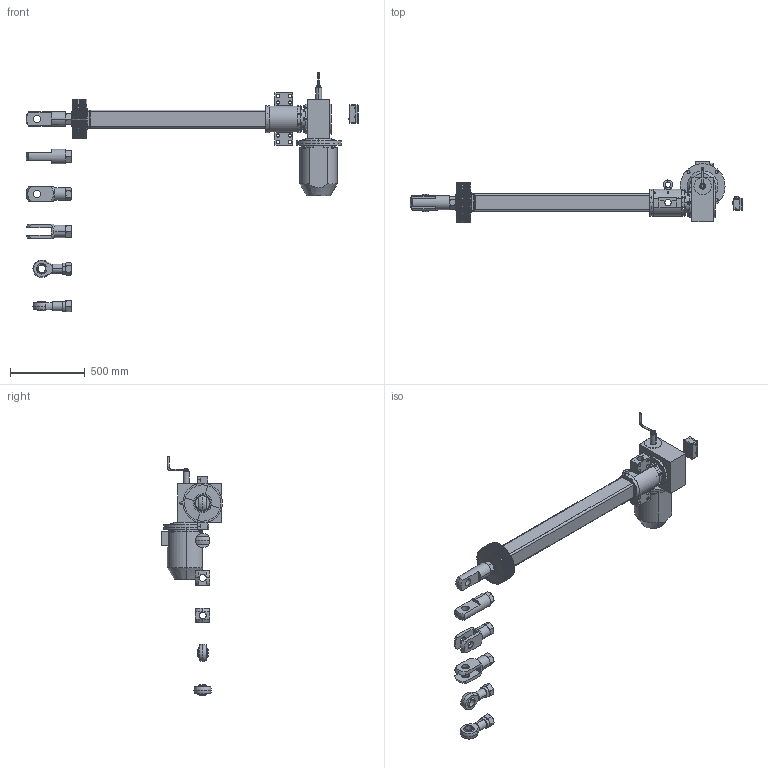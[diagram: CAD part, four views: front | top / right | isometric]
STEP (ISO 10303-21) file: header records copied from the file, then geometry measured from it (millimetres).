
FILE_DESCRIPTION (( 'STEP AP203' ), '1' );
FILE_NAME ('Ì40 10 1000.STEP', '2016-12-21T09:06:44', ( '' ), ( '' ), 'SwSTEP 2.0', 'SolidWorks 2012', '' );
FILE_SCHEMA (( 'CONFIG_CONTROL_DESIGN' ));
Length unit declared in the file: millimetre
Products named in the file (9): ﾌ40 10 1000; 迕10; 苂10; 迍 10; ﾁﾑﾏ; Ãîôð Ñ4_•®¤600; ﾒ矜 10_憤､1000; ﾑ4 10 1; ﾌ4 10 矜鈞
Assembly tree (10 placements, depth 2):
  ﾌ40 10 1000
    ﾌ4 10 矜鈞
    ﾑ4 10 1
    ﾒ矜 10_憤､1000
    Ãîôð Ñ4_•®¤600
    ﾁﾑﾏ
    迍 10
    苂10  x2
    迕10  x2
Bounding box: 2216 x 405.76 x 1601 mm (x, y, z)
Volume: 3118174.1 mm3; surface area: 6694603 mm2
Topology: 1 solids, 211 shells, 1906 faces, 5216 edges, 3541 vertices
Faces by surface type: plane 759, cylinder 599, cone 414, torus 62, sphere 60, bspline 12
Entity records: 62601 total; most frequent: CARTESIAN_POINT 15144, DIRECTION 10383, ORIENTED_EDGE 8387, EDGE_CURVE 4956, AXIS2_PLACEMENT_3D 4163, VERTEX_POINT 3384, CIRCLE 2328, EDGE_LOOP 2180
